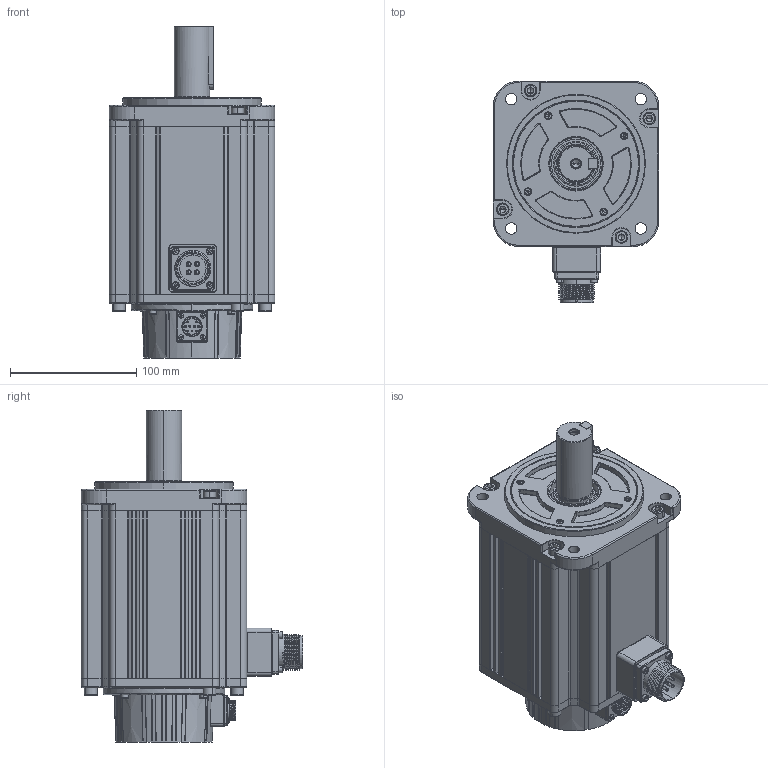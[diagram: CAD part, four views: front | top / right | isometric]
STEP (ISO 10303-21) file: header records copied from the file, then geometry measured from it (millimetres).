
FILE_DESCRIPTION (( 'STEP AP214' ), '1' );
FILE_NAME ('V9E-L13D-3R030-D1-拸囀婄.STEP', '2023-10-09T09:32:53', ( 'IT' ), ( '' ), 'SwSTEP 2.0', 'SolidWorks 2014', '' );
FILE_SCHEMA (( 'AUTOMOTIVE_DESIGN' ));
Length unit declared in the file: millimetre
Products named in the file (25): hexagon socket head cap screws gb_GB_FASTENER_SCREWS_HSHCS M3X30-N; V9 拸价陬蛌赽郪璃-84; V13L103Z003-28-236.5-9; SC_6204 Inner ring; SC6204; V9 130隅赽郪璃-拸价陬-84; 綴傷裔200903-4晚源倛; 编码器罩—塑料 - 共用_9芯; 1105SC瑤諾脣芛 16M-9H; V13L102Q001; SC瑤諾脣芛 CMS3102A18-10P-Z; 囀鞠褒 M6X20; V13L102G001; V13L101F003-132.5-CZ; 埴芛囀鞠褒 ISO 4762 M6 x 20 --- 20N; hexagon socket head cap screws gb_GB_FASTENER_SCREWS_HSHCS M3X8-N; 蚐猾 D00B999YF7-TC 30-42-7; SC_6204 Outer ring; 坋趼攫芛蹟佪 M2X8-8  H type-N; SC_6204 Ball; す瑩 8X7X50; hexagon socket head cap screws gb_GB_FASTENER_SCREWS_HSHCS M3X12-N; 雄薯瑤脣釱200909; SCGB／T276-94深沟球轴承6206-2Z; V9E-L13D-3R030-D1-拸囀婄
Assembly tree (50 placements, depth 4):
  V9E-L13D-3R030-D1-拸囀婄
    V9 130隅赽郪璃-拸价陬-84
      V13L101F003-132.5-CZ
      V13L102G001
      雄薯瑤脣釱200909
      SC瑤諾脣芛 CMS3102A18-10P-Z
      囀鞠褒 M6X20  x4
      V13L102Q001
      hexagon socket head cap screws gb_GB_FASTENER_SCREWS_HSHCS M3X8-N  x4
      hexagon socket head cap screws gb_GB_FASTENER_SCREWS_HSHCS M3X30-N  x4
    V9 拸价陬蛌赽郪璃-84
      綴傷裔200903-4晚源倛
      SCGB／T276-94深沟球轴承6206-2Z
      す瑩 8X7X50
      SC6204
        SC_6204 Outer ring
        SC_6204 Inner ring
        SC_6204 Ball  x9
      V13L103Z003-28-236.5-9
    蚐猾 D00B999YF7-TC 30-42-7
    1105SC瑤諾脣芛 16M-9H
    编码器罩—塑料 - 共用_9芯
    坋趼攫芛蹟佪 M2X8-8  H type-N  x4
    hexagon socket head cap screws gb_GB_FASTENER_SCREWS_HSHCS M3X12-N  x4
    埴芛囀鞠褒 ISO 4762 M6 x 20 --- 20N  x4
Bounding box: 131 x 175.4 x 263 mm (x, y, z)
Volume: 1155539.9 mm3; surface area: 398924.3 mm2
Topology: 47 solids, 47 shells, 2627 faces, 6494 edges, 3931 vertices
Faces by surface type: cylinder 974, plane 771, torus 348, cone 215, bspline 177, sphere 142
Entity records: 80055 total; most frequent: CARTESIAN_POINT 24454, DIRECTION 11232, ORIENTED_EDGE 10556, EDGE_CURVE 5278, AXIS2_PLACEMENT_3D 4666, VERTEX_POINT 3250, CIRCLE 2592, EDGE_LOOP 2392
